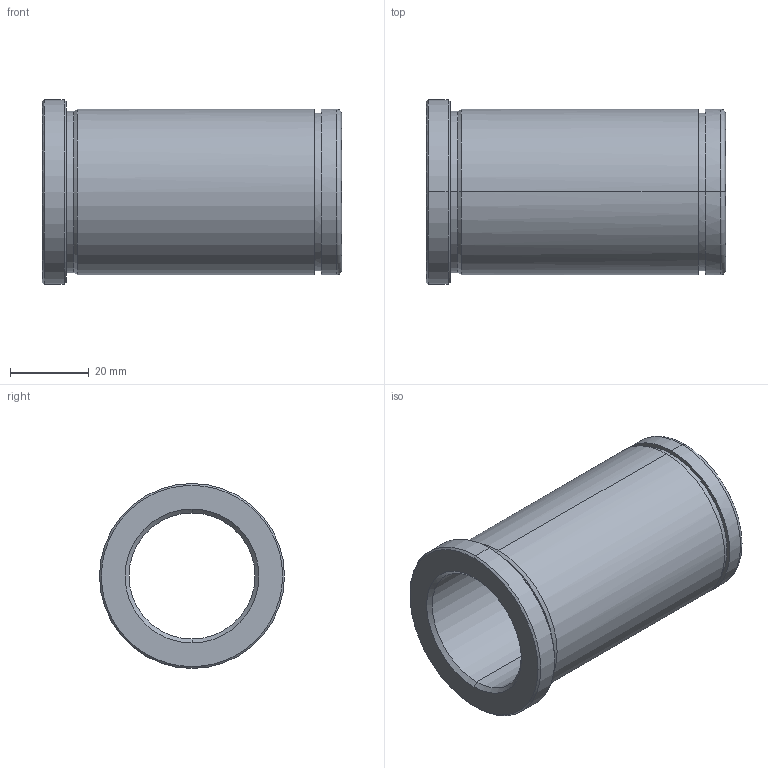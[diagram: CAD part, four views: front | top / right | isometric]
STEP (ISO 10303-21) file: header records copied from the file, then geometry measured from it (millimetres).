
FILE_DESCRIPTION(('CATIA V5 STEP Exchange'),'2;1');
FILE_NAME('C:\Users\Utente\Desktop\IO LAVORO\3D X SITO CF\X SITO\PLASTICA\553\553-32X76.stp','2021-05-26T18:44:31+00:00',('none'),('none'),'CATIA Version 5 Release 20 GA (IN-10)','CATIA V5 STEP AP203','none');
FILE_SCHEMA(('CONFIG_CONTROL_DESIGN'));
Length unit declared in the file: millimetre
Products named in the file (1): 553-32X76
Bounding box: 76 x 47 x 47 mm (x, y, z)
Volume: 45603 mm3; surface area: 19626.6 mm2
Topology: 1 solids, 1 shells, 29 faces, 92 edges, 68 vertices
Faces by surface type: cylinder 12, cone 8, plane 5, torus 4
Entity records: 1228 total; most frequent: CARTESIAN_POINT 378, ORIENTED_EDGE 184, DIRECTION 134, EDGE_CURVE 92, AXIS2_PLACEMENT_3D 86, VERTEX_POINT 68, CIRCLE 56, EDGE_LOOP 34
